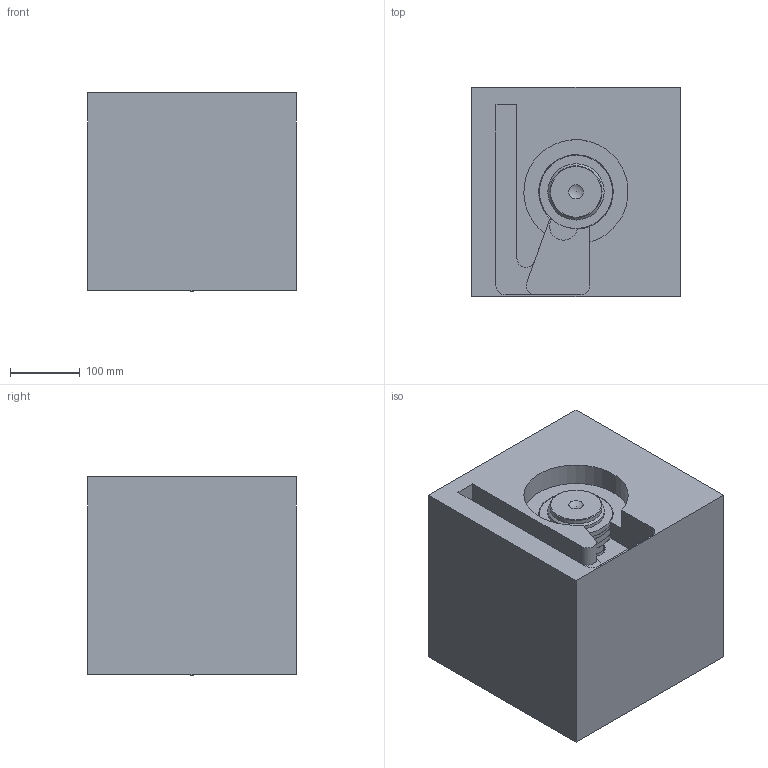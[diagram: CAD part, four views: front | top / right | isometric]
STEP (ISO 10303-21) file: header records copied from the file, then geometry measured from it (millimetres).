
FILE_DESCRIPTION( ( 'STEP AP214' ), '1' );
FILE_NAME( 'S:/PROIECTE_YUDO_2009_dupa_1.07.2009/PROIECTE YUDO 3D 01.07.2009/SAS/YUEU09-SAS32VC252_4/YUEU09-SAS32VC252.step', '2009-07-02T11:42:05', ( ' ' ), ( ' ' ), 'XStep 1.0', ' ', ' ' );
FILE_SCHEMA( ( 'automotive_design' ) );
Length unit declared in the file: millimetre
Products named in the file (4): 1; 2; 3; 4
Bounding box: 300 x 300 x 285 mm (x, y, z)
Volume: 24322823.9 mm3; surface area: 719079.3 mm2
Topology: 4 solids, 4 shells, 100 faces, 198 edges, 129 vertices
Faces by surface type: plane 47, cylinder 37, cone 11, torus 4, sphere 1
Full cylindrical faces by diameter (mm): 4 x2, 6 x6, 6.5 x1, 20 x1, 24 x1, 31 x1, 32 x3, 32.1 x1, 44 x1, 47 x1, 75 x1, 81 x1, 104 x4, 105 x5
Entity records: 3169 total; most frequent: DIRECTION 440, CARTESIAN_POINT 375, ORIENTED_EDGE 290, AXIS2_PLACEMENT_3D 193, EDGE_LOOP 171, EDGE_CURVE 145, FACE_OUTER_BOUND 133, VERTEX_POINT 120
